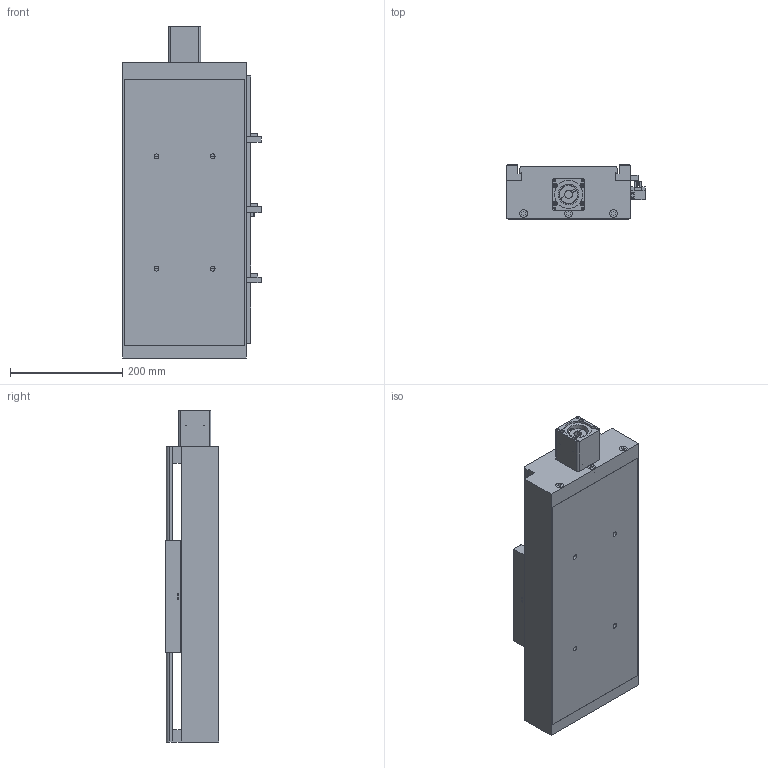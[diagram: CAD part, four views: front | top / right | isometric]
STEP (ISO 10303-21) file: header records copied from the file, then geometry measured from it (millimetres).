
FILE_DESCRIPTION((''),'2;1');
FILE_NAME('E:\libraries\UIA actuator library 2016\standard actuator\UIA220R20NDC\UIA220R20NDC ball screw 25\UIA220R20NDC-_ _ _-R25_ _ stp file, 01May16\UIA220R20NDC-250-R25_ _-M60-P13-C10-S.stp','2016-04-29T17:20:41',('h029'),(''),'Autodesk Inventor 11','Autodesk Inventor 11','');
FILE_SCHEMA(('AUTOMOTIVE_DESIGN { 1 0 10303 214 1 1 1 1 }'));
Length unit declared in the file: millimetre
Products named in the file (10): UIA220R20NDC-250-R25_ _; UIA220R20NDC-body; 41-100 0010 CARRIAGE; sensor rail; Sensor Switch; motor mount M60; SOH-32C; SOH-32C-3; SOH-32C-1; SOH-32C-2
Assembly tree (9 placements, depth 3):
  UIA220R20NDC-250-R25_ _
    UIA220R20NDC-body
    41-100 0010 CARRIAGE
    sensor rail
    Sensor Switch
    motor mount M60
    SOH-32C
      SOH-32C-3
      SOH-32C-1
      SOH-32C-2
Bounding box: 246.5 x 96 x 591 mm (x, y, z)
Volume: 4173065.3 mm3; surface area: 883538 mm2
Topology: 8 solids, 8 shells, 499 faces, 1341 edges, 881 vertices
Faces by surface type: plane 342, bspline 109, cylinder 46, cone 2
Full cylindrical faces by diameter (mm): 3.242 x2, 4.5 x2, 7 x4, 7.5 x2, 13.8 x3, 14 x6, 17 x1, 32 x3, 37 x1, 50.3 x1, 50.5 x1
Entity records: 16306 total; most frequent: CARTESIAN_POINT 4537, ORIENTED_EDGE 2296, DIRECTION 2245, EDGE_CURVE 1148, VECTOR 849, LINE 849, VERTEX_POINT 807, EDGE_LOOP 709
